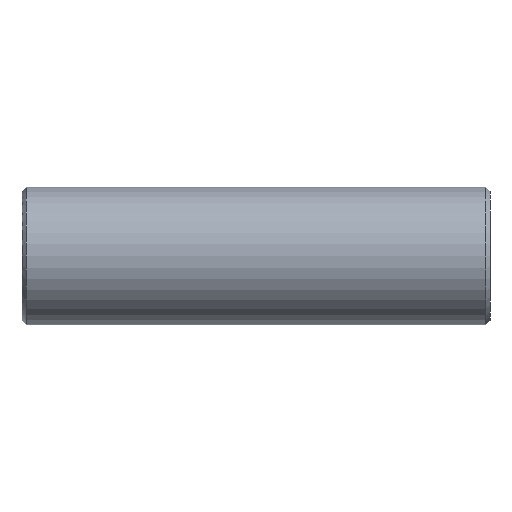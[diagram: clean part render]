
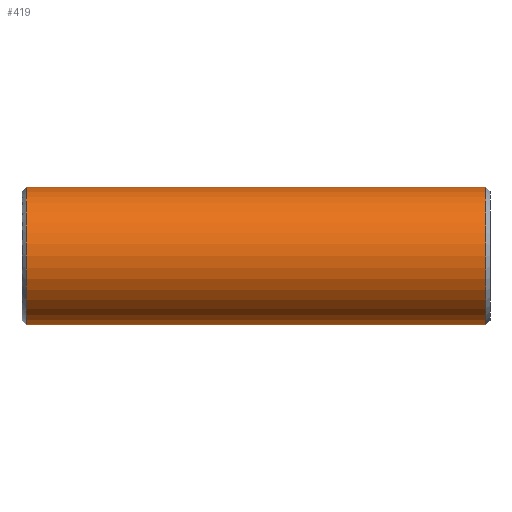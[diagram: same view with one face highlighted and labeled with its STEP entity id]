
A CAD part, front view. The second image highlights one B-rep face of the part: STEP entity #419.
In plain terms, the highlighted cylindrical face has radius 17 mm (diameter 34 mm), a partial arc.
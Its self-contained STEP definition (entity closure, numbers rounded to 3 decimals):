
#231=CARTESIAN_POINT('Vertex',(1.,0.,-17.)) ;
#238=CARTESIAN_POINT('Vertex',(1.,0.,17.)) ;
#267=CARTESIAN_POINT('Axis2P3D Location',(1.,0.,0.)) ;
#271=CARTESIAN_POINT('Vertex',(1.,-17.,0.)) ;
#274=CARTESIAN_POINT('Axis2P3D Location',(1.,0.,0.)) ;
#359=CARTESIAN_POINT('Line Origine',(116.,0.,17.)) ;
#363=CARTESIAN_POINT('Vertex',(115.,0.,17.)) ;
#377=CARTESIAN_POINT('Vertex',(115.,0.,-17.)) ;
#380=CARTESIAN_POINT('Line Origine',(116.,0.,-17.)) ;
#394=CARTESIAN_POINT('Axis2P3D Location',(116.,0.,0.)) ;
#399=CARTESIAN_POINT('Axis2P3D Location',(115.,0.,0.)) ;
#403=CARTESIAN_POINT('Vertex',(115.,-17.,0.)) ;
#406=CARTESIAN_POINT('Axis2P3D Location',(115.,0.,0.)) ;
#268=DIRECTION('Axis2P3D Direction',(1.,0.,-0.)) ;
#275=DIRECTION('Axis2P3D Direction',(1.,0.,-0.)) ;
#360=DIRECTION('Vector Direction',(-1.,0.,0.)) ;
#381=DIRECTION('Vector Direction',(-1.,0.,0.)) ;
#395=DIRECTION('Axis2P3D Direction',(-1.,-0.,-0.)) ;
#396=DIRECTION('Axis2P3D XDirection',(0.,0.,-1.)) ;
#400=DIRECTION('Axis2P3D Direction',(-1.,-0.,-0.)) ;
#407=DIRECTION('Axis2P3D Direction',(-1.,-0.,-0.)) ;
#269=AXIS2_PLACEMENT_3D('Circle Axis2P3D',#267,#268,$) ;
#276=AXIS2_PLACEMENT_3D('Circle Axis2P3D',#274,#275,$) ;
#397=AXIS2_PLACEMENT_3D('Cylinder Axis2P3D',#394,#395,#396) ;
#401=AXIS2_PLACEMENT_3D('Circle Axis2P3D',#399,#400,$) ;
#408=AXIS2_PLACEMENT_3D('Circle Axis2P3D',#406,#407,$) ;
#412=ORIENTED_EDGE('',*,*,#384,.T.) ;
#413=ORIENTED_EDGE('',*,*,#405,.F.) ;
#414=ORIENTED_EDGE('',*,*,#410,.F.) ;
#415=ORIENTED_EDGE('',*,*,#365,.T.) ;
#416=ORIENTED_EDGE('',*,*,#278,.T.) ;
#417=ORIENTED_EDGE('',*,*,#273,.T.) ;
#361=VECTOR('Line Direction',#360,1.) ;
#382=VECTOR('Line Direction',#381,1.) ;
#419=ADVANCED_FACE('352-25X116',(#418),#398,.T.) ;
#270=CIRCLE('generated circle',#269,17.) ;
#277=CIRCLE('generated circle',#276,17.) ;
#402=CIRCLE('generated circle',#401,17.) ;
#409=CIRCLE('generated circle',#408,17.) ;
#398=CYLINDRICAL_SURFACE('generated cylinder',#397,17.) ;
#273=EDGE_CURVE('',#272,#232,#270,.T.) ;
#278=EDGE_CURVE('',#239,#272,#277,.T.) ;
#365=EDGE_CURVE('',#364,#239,#362,.T.) ;
#384=EDGE_CURVE('',#232,#378,#383,.F.) ;
#405=EDGE_CURVE('',#404,#378,#402,.F.) ;
#410=EDGE_CURVE('',#364,#404,#409,.F.) ;
#411=EDGE_LOOP('',(#412,#413,#414,#415,#416,#417)) ;
#418=FACE_OUTER_BOUND('',#411,.T.) ;
#362=LINE('Line',#359,#361) ;
#383=LINE('Line',#380,#382) ;
#232=VERTEX_POINT('',#231) ;
#239=VERTEX_POINT('',#238) ;
#272=VERTEX_POINT('',#271) ;
#364=VERTEX_POINT('',#363) ;
#378=VERTEX_POINT('',#377) ;
#404=VERTEX_POINT('',#403) ;
